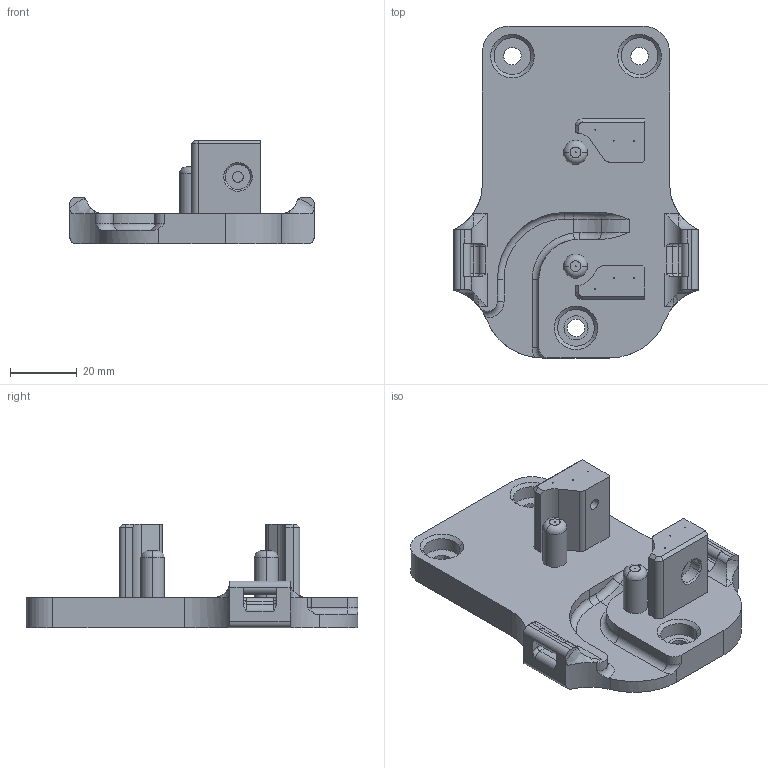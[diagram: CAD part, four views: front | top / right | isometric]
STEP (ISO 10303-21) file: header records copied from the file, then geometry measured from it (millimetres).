
FILE_DESCRIPTION(('CATIA V5 STEP Exchange'),'2;1');
FILE_NAME('E:\Dropbox\3D Printer Fan Duct Designs\1.) Artillery Sidewinder X1\3D Models\5015 Ducts\HEMERA_MATRIX_E3D\BONUS_BRACKET\BRACKET WHEELS_Nuts.stp','2021-10-25T23:20:32+00:00',('none'),('none'),'CATIA Version 5 Release 20 SP 1 (IN-10)','CATIA V5 STEP AP214','none');
FILE_SCHEMA(('AUTOMOTIVE_DESIGN { 1 0 10303 214 1 1 1 1 }'));
Length unit declared in the file: millimetre
Products named in the file (1): SUPPORTO_PER_RUOTE
Bounding box: 73 x 99.2 x 31 mm (x, y, z)
Volume: 56885.3 mm3; surface area: 19542.3 mm2
Topology: 1 solids, 1 shells, 225 faces, 588 edges, 376 vertices
Faces by surface type: cylinder 109, plane 69, torus 24, cone 18, bspline 5
Entity records: 7470 total; most frequent: CARTESIAN_POINT 2216, ORIENTED_EDGE 1176, DIRECTION 865, EDGE_CURVE 588, AXIS2_PLACEMENT_3D 423, VERTEX_POINT 376, EDGE_LOOP 268, VECTOR 267
